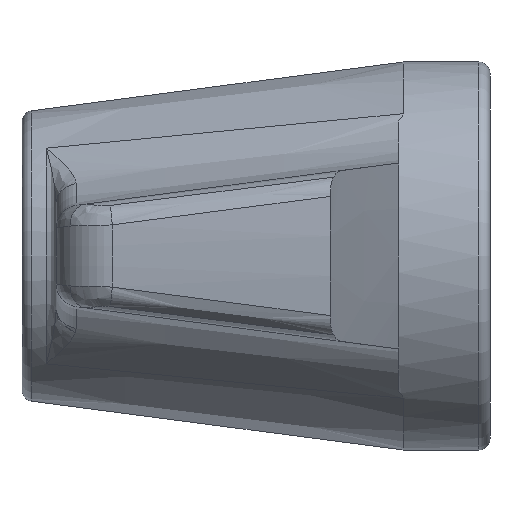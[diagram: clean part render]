
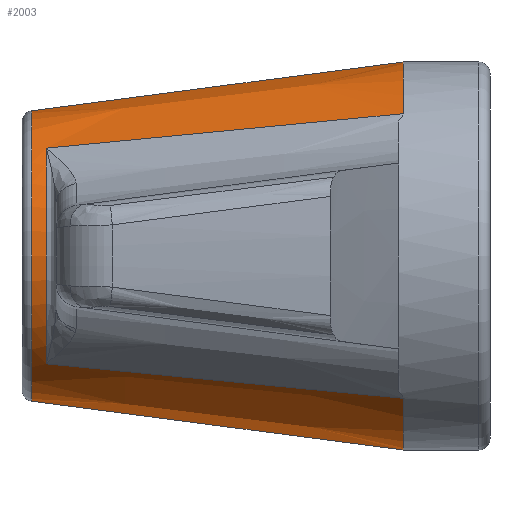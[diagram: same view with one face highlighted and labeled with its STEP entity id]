
A CAD part, left-side view. The second image highlights one B-rep face of the part: STEP entity #2003.
In plain terms, the highlighted conical face has half-angle 7.5 degrees and reference radius 6.5 mm.
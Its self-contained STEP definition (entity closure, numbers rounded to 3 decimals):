
#515 = CARTESIAN_POINT ( 'NONE',  ( 0., 20.065, 6.36 ) ) ;
#516 = CARTESIAN_POINT ( 'NONE',  ( 0., 20.065, -6.36 ) ) ;
#534 = DIRECTION ( 'NONE',  ( 0., -0.991, 0.131 ) ) ;
#535 = VECTOR ( 'NONE', #534, 1000. ) ;
#536 = CARTESIAN_POINT ( 'NONE',  ( 0., 19., 6.5 ) ) ;
#542 = LINE ( 'NONE', #536, #535 ) ;
#566 = DIRECTION ( 'NONE',  ( 0., 0., -1. ) ) ;
#567 = DIRECTION ( 'NONE',  ( 0., 1., 0. ) ) ;
#568 = CARTESIAN_POINT ( 'NONE',  ( 0., 19.435, 0. ) ) ;
#569 = AXIS2_PLACEMENT_3D ( 'NONE', #568, #567, #566 ) ;
#570 = CIRCLE ( 'NONE', #569, 6.443 ) ;
#571 = DIRECTION ( 'NONE',  ( 0.089, 0.991, -0.096 ) ) ;
#572 = VECTOR ( 'NONE', #571, 1000. ) ;
#573 = CARTESIAN_POINT ( 'NONE',  ( -4.419, 19., 4.767 ) ) ;
#574 = LINE ( 'NONE', #573, #572 ) ;
#575 = CARTESIAN_POINT ( 'NONE',  ( -5.779, 3.808, 6.233 ) ) ;
#576 = DIRECTION ( 'NONE',  ( 0., 0., -1. ) ) ;
#577 = DIRECTION ( 'NONE',  ( 0., -1., 0. ) ) ;
#578 = CARTESIAN_POINT ( 'NONE',  ( 0., 3.808, 0. ) ) ;
#579 = AXIS2_PLACEMENT_3D ( 'NONE', #578, #577, #576 ) ;
#580 = DIRECTION ( 'NONE',  ( 0., 0., -1. ) ) ;
#581 = DIRECTION ( 'NONE',  ( 0., -1., 0. ) ) ;
#582 = CARTESIAN_POINT ( 'NONE',  ( 0., 3.808, 0. ) ) ;
#583 = AXIS2_PLACEMENT_3D ( 'NONE', #582, #581, #580 ) ;
#584 = CIRCLE ( 'NONE', #583, 8.5 ) ;
#605 = CARTESIAN_POINT ( 'NONE',  ( -5.779, 3.808, -6.233 ) ) ;
#606 = CARTESIAN_POINT ( 'NONE',  ( -4.38, 19.435, -4.725 ) ) ;
#637 = DIRECTION ( 'NONE',  ( 0., 0., 1. ) ) ;
#638 = DIRECTION ( 'NONE',  ( 0., -1., 0. ) ) ;
#639 = CARTESIAN_POINT ( 'NONE',  ( 0., 19., 0. ) ) ;
#640 = AXIS2_PLACEMENT_3D ( 'NONE', #639, #638, #637 ) ;
#641 = CONICAL_SURFACE ( 'NONE', #640, 6.5, 0.131 ) ;
#642 = FACE_OUTER_BOUND ( 'NONE', #1997, .T. ) ;
#643 = DIRECTION ( 'NONE',  ( 0., 0., 1. ) ) ;
#644 = DIRECTION ( 'NONE',  ( 0., -1., 0. ) ) ;
#645 = CARTESIAN_POINT ( 'NONE',  ( 0., 20.065, 0. ) ) ;
#646 = AXIS2_PLACEMENT_3D ( 'NONE', #645, #644, #643 ) ;
#647 = CIRCLE ( 'NONE', #646, 6.36 ) ;
#648 = DIRECTION ( 'NONE',  ( 0., -0.991, -0.131 ) ) ;
#649 = VECTOR ( 'NONE', #648, 1000. ) ;
#650 = CARTESIAN_POINT ( 'NONE',  ( 0., 19., -6.5 ) ) ;
#651 = LINE ( 'NONE', #650, #649 ) ;
#652 = CARTESIAN_POINT ( 'NONE',  ( 0., 3.808, -8.5 ) ) ;
#653 = DIRECTION ( 'NONE',  ( 0.089, 0.991, 0.096 ) ) ;
#654 = VECTOR ( 'NONE', #653, 1000. ) ;
#655 = CARTESIAN_POINT ( 'NONE',  ( -4.419, 19., -4.767 ) ) ;
#656 = LINE ( 'NONE', #655, #654 ) ;
#657 = CIRCLE ( 'NONE', #579, 8.5 ) ;
#658 = CARTESIAN_POINT ( 'NONE',  ( -4.38, 19.435, 4.725 ) ) ;
#659 = CARTESIAN_POINT ( 'NONE',  ( 0., 3.808, 8.5 ) ) ;
#1911 = VERTEX_POINT ( 'NONE', #516 ) ;
#1912 = VERTEX_POINT ( 'NONE', #515 ) ;
#1937 = VERTEX_POINT ( 'NONE', #659 ) ;
#1938 = ORIENTED_EDGE ( 'NONE', *, *, #1978, .F. ) ;
#1939 = ORIENTED_EDGE ( 'NONE', *, *, #1940, .F. ) ;
#1940 = EDGE_CURVE ( 'NONE', #1937, #1942, #657, .T. ) ;
#1941 = VERTEX_POINT ( 'NONE', #658 ) ;
#1942 = VERTEX_POINT ( 'NONE', #575 ) ;
#1943 = ORIENTED_EDGE ( 'NONE', *, *, #1944, .F. ) ;
#1944 = EDGE_CURVE ( 'NONE', #1942, #1941, #574, .T. ) ;
#1945 = EDGE_CURVE ( 'NONE', #1993, #1941, #570, .T. ) ;
#1978 = EDGE_CURVE ( 'NONE', #1912, #1937, #542, .T. ) ;
#1992 = ORIENTED_EDGE ( 'NONE', *, *, #1945, .T. ) ;
#1993 = VERTEX_POINT ( 'NONE', #606 ) ;
#1994 = VERTEX_POINT ( 'NONE', #605 ) ;
#1995 = ORIENTED_EDGE ( 'NONE', *, *, #1996, .T. ) ;
#1996 = EDGE_CURVE ( 'NONE', #1994, #1993, #656, .T. ) ;
#1997 = EDGE_LOOP ( 'NONE', ( #2001, #1998, #2005, #1995, #1992, #1943, #1939, #1938 ) ) ;
#1998 = ORIENTED_EDGE ( 'NONE', *, *, #2000, .T. ) ;
#1999 = VERTEX_POINT ( 'NONE', #652 ) ;
#2000 = EDGE_CURVE ( 'NONE', #1911, #1999, #651, .T. ) ;
#2001 = ORIENTED_EDGE ( 'NONE', *, *, #2002, .T. ) ;
#2002 = EDGE_CURVE ( 'NONE', #1912, #1911, #647, .T. ) ;
#2003 = ADVANCED_FACE ( 'NONE', ( #642 ), #641, .T. ) ;
#2005 = ORIENTED_EDGE ( 'NONE', *, *, #2006, .F. ) ;
#2006 = EDGE_CURVE ( 'NONE', #1994, #1999, #584, .T. ) ;
